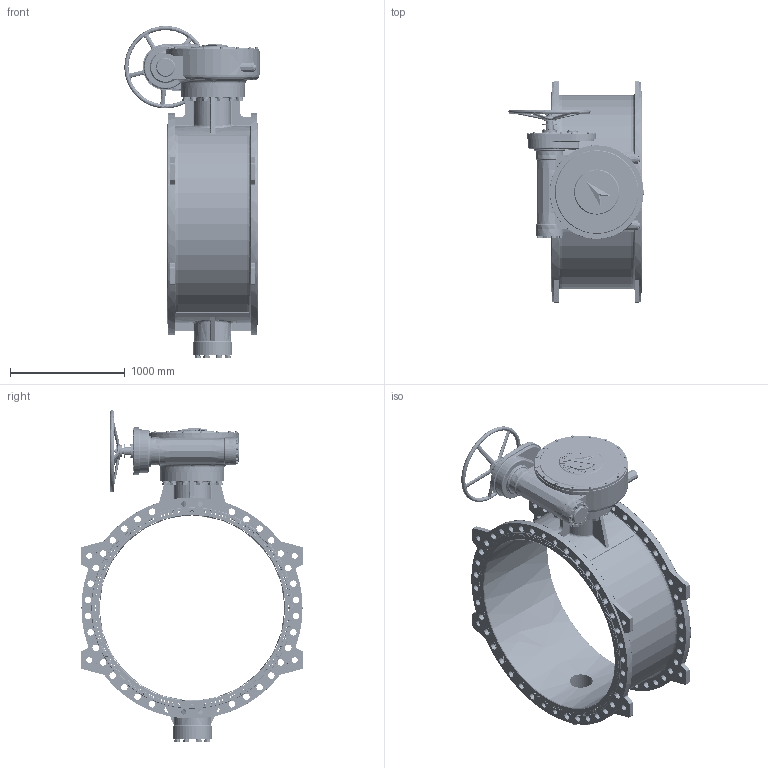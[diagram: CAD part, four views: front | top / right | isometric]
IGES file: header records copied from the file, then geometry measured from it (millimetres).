
Start section: SolidWorks IGES file using analytic representation for surfaces
Global section: file name: F:\2014年工作\泰科菲三维模型资料\PN16\DN1600 PN16\1600-16.IGS; native system: SolidWorks 2012; preprocessor: SolidWorks 2012; author: Administrator; date: 150115.111953; units: millimetre
Bounding box: 1181.96 x 1940 x 2899.01 mm (x, y, z)
Surface area: 21985813 mm2 (no closed solid volume)
Topology: 0 solids, 0 shells, 4391 faces, 92354 edges, 92184 vertices
Faces by surface type: revolution 2366, bspline 2025
